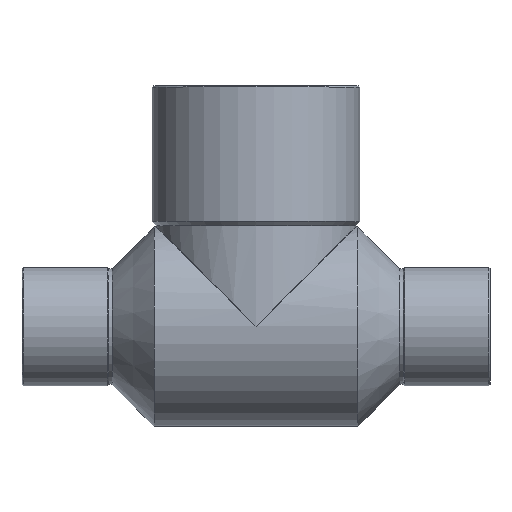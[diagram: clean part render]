
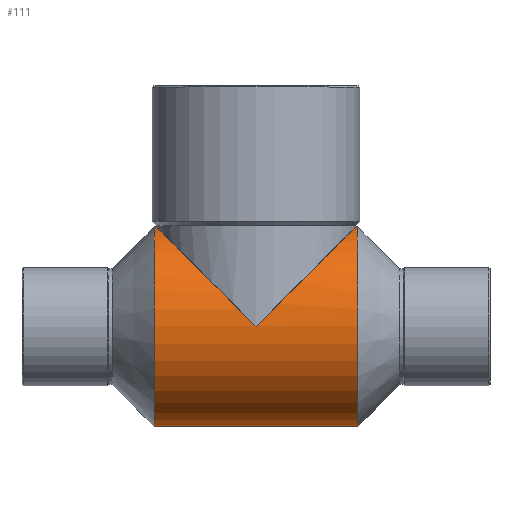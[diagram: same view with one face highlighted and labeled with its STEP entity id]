
A CAD part, top view. The second image highlights one B-rep face of the part: STEP entity #111.
In plain terms, the highlighted cylindrical face has radius 14.5 mm (diameter 29 mm), a partial arc.
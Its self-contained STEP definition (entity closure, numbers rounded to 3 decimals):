
#44=CARTESIAN_POINT('',(0.,0.,0.0));
#45=DIRECTION('',(1.0,0.,0.0));
#46=DIRECTION('',(0.0,1.0,0.0));
#47=AXIS2_PLACEMENT_3D('',#44,#45,#46);
#48=CYLINDRICAL_SURFACE('',#47,14.5);
#49=CARTESIAN_POINT('',(-14.79,14.5,0.0));
#50=VERTEX_POINT('',#49);
#51=CARTESIAN_POINT('',(-14.55,14.5,0.));
#52=VERTEX_POINT('',#51);
#53=CARTESIAN_POINT('',(-14.79,14.5,0.0));
#54=DIRECTION('',(1.0,0.0,0.0));
#55=VECTOR('',#54,0.24);
#56=LINE('',#53,#55);
#57=EDGE_CURVE('',#50,#52,#56,.T.);
#58=ORIENTED_EDGE('',*,*,#57,.F.);
#59=CARTESIAN_POINT('',(-14.79,-14.5,0.));
#60=VERTEX_POINT('',#59);
#61=CARTESIAN_POINT('',(-14.79,0.,0.0));
#62=DIRECTION('',(1.0,0.0,0.0));
#63=DIRECTION('',(0.0,1.0,0.0));
#64=AXIS2_PLACEMENT_3D('',#61,#62,#63);
#65=CIRCLE('',#64,14.5);
#66=EDGE_CURVE('',#50,#60,#65,.T.);
#67=ORIENTED_EDGE('',*,*,#66,.T.);
#68=CARTESIAN_POINT('',(14.79,-14.5,0.));
#69=VERTEX_POINT('',#68);
#70=CARTESIAN_POINT('',(14.79,-14.5,0.));
#71=DIRECTION('',(-1.0,0.0,0.0));
#72=VECTOR('',#71,29.58);
#73=LINE('',#70,#72);
#74=EDGE_CURVE('',#69,#60,#73,.T.);
#75=ORIENTED_EDGE('',*,*,#74,.F.);
#76=CARTESIAN_POINT('',(14.79,14.5,0.0));
#77=VERTEX_POINT('',#76);
#78=CARTESIAN_POINT('',(14.79,0.,0.0));
#79=DIRECTION('',(-1.0,0.0,0.0));
#80=DIRECTION('',(0.0,1.0,0.0));
#81=AXIS2_PLACEMENT_3D('',#78,#79,#80);
#82=CIRCLE('',#81,14.5);
#83=EDGE_CURVE('',#69,#77,#82,.T.);
#84=ORIENTED_EDGE('',*,*,#83,.T.);
#85=CARTESIAN_POINT('',(14.55,14.5,0.));
#86=VERTEX_POINT('',#85);
#87=CARTESIAN_POINT('',(14.55,14.5,0.));
#88=DIRECTION('',(1.0,0.0,0.0));
#89=VECTOR('',#88,0.24);
#90=LINE('',#87,#89);
#91=EDGE_CURVE('',#86,#77,#90,.T.);
#92=ORIENTED_EDGE('',*,*,#91,.F.);
#93=CARTESIAN_POINT('',(0.,0.,14.5));
#94=VERTEX_POINT('',#93);
#95=CARTESIAN_POINT('',(0.0,0.,0.0));
#96=DIRECTION('',(-0.706,0.708,0.));
#97=DIRECTION('',(0.708,0.706,0.0));
#98=AXIS2_PLACEMENT_3D('',#95,#96,#97);
#99=ELLIPSE('',#98,20.541,14.5);
#100=EDGE_CURVE('',#94,#86,#99,.T.);
#101=ORIENTED_EDGE('',*,*,#100,.F.);
#102=CARTESIAN_POINT('',(0.0,0.,0.0));
#103=DIRECTION('',(0.706,0.708,0.));
#104=DIRECTION('',(-0.708,0.706,0.0));
#105=AXIS2_PLACEMENT_3D('',#102,#103,#104);
#106=ELLIPSE('',#105,20.541,14.5);
#107=EDGE_CURVE('',#52,#94,#106,.T.);
#108=ORIENTED_EDGE('',*,*,#107,.F.);
#109=EDGE_LOOP('',(#58,#67,#75,#84,#92,#101,#108));
#110=FACE_OUTER_BOUND('',#109,.T.);
#111=ADVANCED_FACE('',(#110),#48,.T.);
